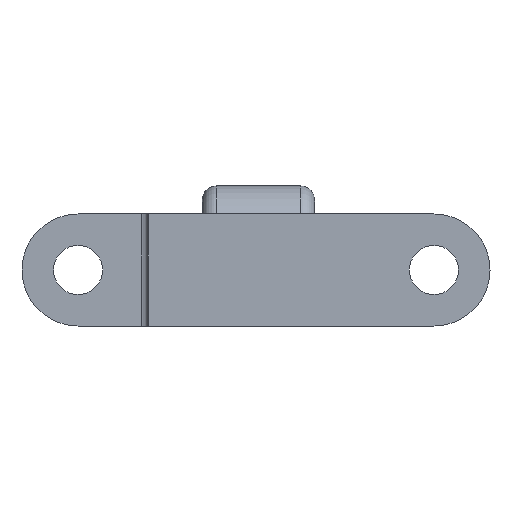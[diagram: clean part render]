
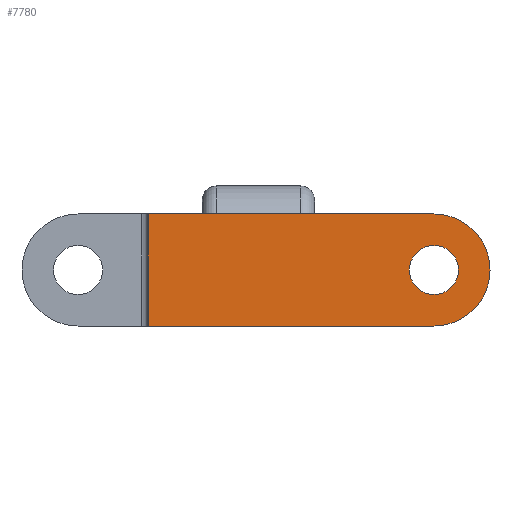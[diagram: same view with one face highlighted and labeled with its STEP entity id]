
A CAD part, front view. The second image highlights one B-rep face of the part: STEP entity #7780.
In plain terms, the highlighted planar face has unit normal (0, -1, 0).
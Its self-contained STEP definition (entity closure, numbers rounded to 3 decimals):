
#890=CARTESIAN_POINT('Vertex',(-15.75,-126.3,8.)) ;
#893=CARTESIAN_POINT('Line Origine',(4.65,-126.3,8.)) ;
#897=CARTESIAN_POINT('Vertex',(25.05,-126.3,8.)) ;
#2831=CARTESIAN_POINT('Axis2P3D Location',(25.05,-126.3,0.)) ;
#2835=CARTESIAN_POINT('Vertex',(28.55,-126.3,0.)) ;
#2837=CARTESIAN_POINT('Vertex',(21.55,-126.3,0.)) ;
#2866=CARTESIAN_POINT('Axis2P3D Location',(25.05,-126.3,0.)) ;
#4721=CARTESIAN_POINT('Vertex',(25.05,-126.3,-8.)) ;
#4724=CARTESIAN_POINT('Axis2P3D Location',(25.05,-126.3,0.)) ;
#7753=CARTESIAN_POINT('Axis2P3D Location',(-41.556,-126.3,-8.)) ;
#7758=CARTESIAN_POINT('Line Origine',(4.65,-126.3,-8.)) ;
#7762=CARTESIAN_POINT('Vertex',(-15.75,-126.3,-8.)) ;
#7765=CARTESIAN_POINT('Line Origine',(-15.75,-126.3,0.)) ;
#894=DIRECTION('Vector Direction',(-1.,0.,0.)) ;
#2832=DIRECTION('Axis2P3D Direction',(0.,1.,0.)) ;
#2867=DIRECTION('Axis2P3D Direction',(0.,1.,0.)) ;
#4725=DIRECTION('Axis2P3D Direction',(0.,1.,0.)) ;
#7754=DIRECTION('Axis2P3D Direction',(-0.,-1.,0.)) ;
#7755=DIRECTION('Axis2P3D XDirection',(1.,-0.,0.)) ;
#7759=DIRECTION('Vector Direction',(1.,0.,0.)) ;
#7766=DIRECTION('Vector Direction',(0.,0.,1.)) ;
#2833=AXIS2_PLACEMENT_3D('Circle Axis2P3D',#2831,#2832,$) ;
#2868=AXIS2_PLACEMENT_3D('Circle Axis2P3D',#2866,#2867,$) ;
#4726=AXIS2_PLACEMENT_3D('Circle Axis2P3D',#4724,#4725,$) ;
#7756=AXIS2_PLACEMENT_3D('Plane Axis2P3D',#7753,#7754,#7755) ;
#7771=ORIENTED_EDGE('',*,*,#7764,.T.) ;
#7772=ORIENTED_EDGE('',*,*,#4728,.T.) ;
#7773=ORIENTED_EDGE('',*,*,#899,.T.) ;
#7774=ORIENTED_EDGE('',*,*,#7769,.F.) ;
#7777=ORIENTED_EDGE('',*,*,#2839,.F.) ;
#7778=ORIENTED_EDGE('',*,*,#2870,.F.) ;
#7779=FACE_BOUND('',#7776,.T.) ;
#895=VECTOR('Line Direction',#894,1.) ;
#7760=VECTOR('Line Direction',#7759,1.) ;
#7767=VECTOR('Line Direction',#7766,1.) ;
#7780=ADVANCED_FACE('PartBody',(#7775,#7779),#7757,.T.) ;
#2834=CIRCLE('generated circle',#2833,3.5) ;
#2869=CIRCLE('generated circle',#2868,3.5) ;
#4727=CIRCLE('generated circle',#4726,8.) ;
#899=EDGE_CURVE('',#898,#891,#896,.T.) ;
#2839=EDGE_CURVE('',#2836,#2838,#2834,.F.) ;
#2870=EDGE_CURVE('',#2838,#2836,#2869,.F.) ;
#4728=EDGE_CURVE('',#4722,#898,#4727,.F.) ;
#7764=EDGE_CURVE('',#7763,#4722,#7761,.T.) ;
#7769=EDGE_CURVE('',#7763,#891,#7768,.T.) ;
#7770=EDGE_LOOP('',(#7771,#7772,#7773,#7774)) ;
#7776=EDGE_LOOP('',(#7777,#7778)) ;
#7775=FACE_OUTER_BOUND('',#7770,.T.) ;
#896=LINE('Line',#893,#895) ;
#7761=LINE('Line',#7758,#7760) ;
#7768=LINE('Line',#7765,#7767) ;
#7757=PLANE('',#7756) ;
#891=VERTEX_POINT('',#890) ;
#898=VERTEX_POINT('',#897) ;
#2836=VERTEX_POINT('',#2835) ;
#2838=VERTEX_POINT('',#2837) ;
#4722=VERTEX_POINT('',#4721) ;
#7763=VERTEX_POINT('',#7762) ;
